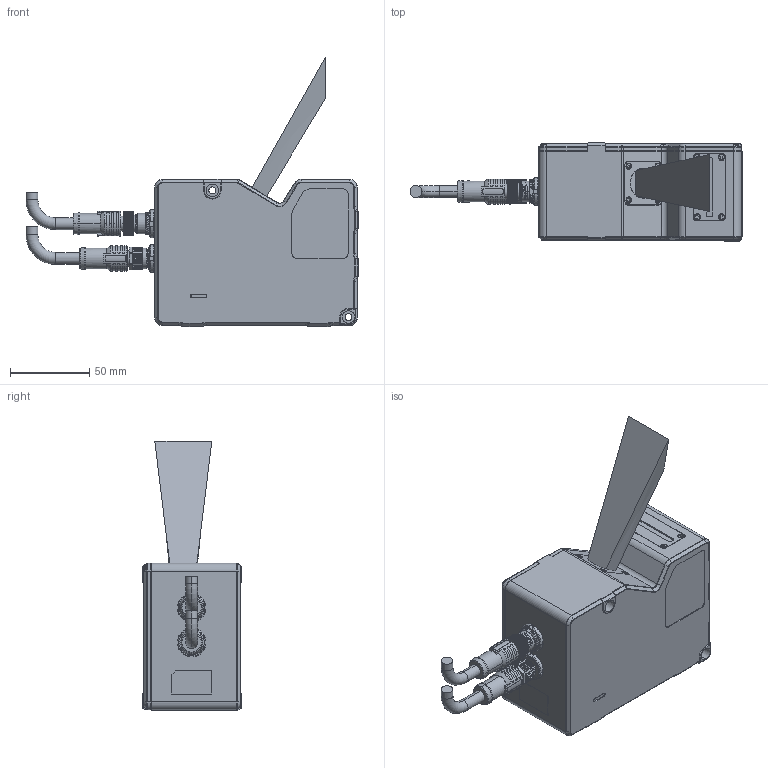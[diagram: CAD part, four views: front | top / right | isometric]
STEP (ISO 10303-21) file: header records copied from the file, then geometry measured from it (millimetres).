
FILE_DESCRIPTION((''),'2;1');
FILE_NAME('MV-DP2060-01P_SW0001','2026-05-11T15:06:25',('liudeting'),(''),'CREO PARAMETRIC BY PTC INC, 2020044','CREO PARAMETRIC BY PTC INC, 2020044','');
FILE_SCHEMA(('AUTOMOTIVE_DESIGN { 1 0 10303 214 1 1 1 1 }'));
Products named in the file (1): MV-DP2060-01P_SW0001
Bounding box: 209.75 x 62 x 170 mm (x, y, z)
Surface area: 68387.1 mm2 (no closed solid volume)
Topology: 0 solids, 59 shells, 1382 faces, 4422 edges, 3091 vertices
Faces by surface type: plane 704, cylinder 423, torus 122, cone 112, bspline 21
Entity records: 66163 total; most frequent: CARTESIAN_POINT 21998, DIRECTION 8128, ORIENTED_EDGE 7291, EDGE_CURVE 4412, VERTEX_POINT 3091, AXIS2_PLACEMENT_3D 2889, VECTOR 2350, LINE 2350
